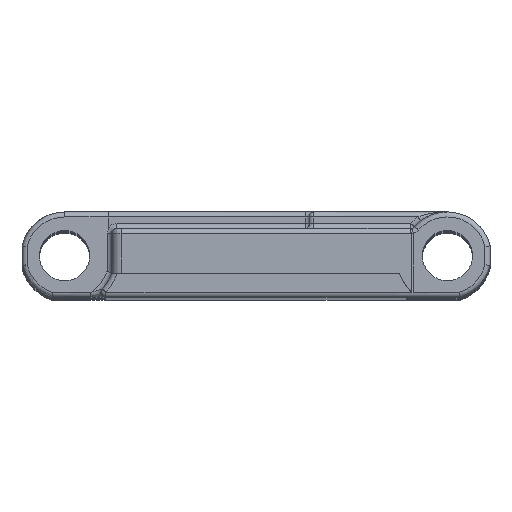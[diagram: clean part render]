
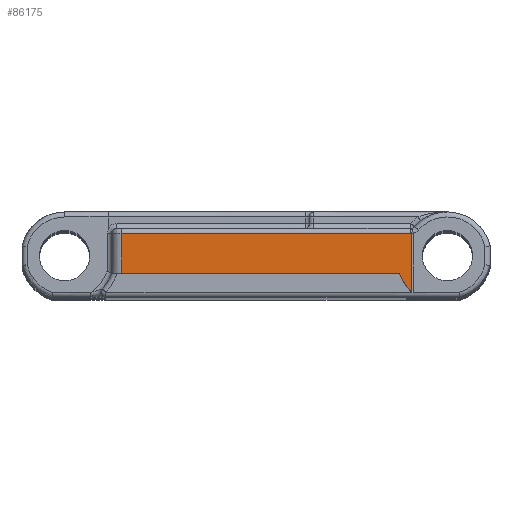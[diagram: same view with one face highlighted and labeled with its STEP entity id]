
A CAD part, top view. The second image highlights one B-rep face of the part: STEP entity #86175.
In plain terms, the highlighted planar face has unit normal (0, 0, 1).
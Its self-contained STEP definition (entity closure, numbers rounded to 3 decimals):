
#9557=DIRECTION('',(1.,0.,0.));
#9558=VECTOR('',#9557,27.636);
#9559=CARTESIAN_POINT('',(-13.366,-1.763,76.15));
#9560=LINE('',#9559,#9558);
#29552=DIRECTION('',(-1.,0.,0.));
#29553=VECTOR('',#29552,28.772);
#29554=CARTESIAN_POINT('',(15.406,2.2,76.15));
#29555=LINE('',#29554,#29553);
#29556=CARTESIAN_POINT('',(15.406,3.2,76.15));
#29557=DIRECTION('',(0.,0.,-1.));
#29558=DIRECTION('',(0.034,-0.999,0.));
#29559=AXIS2_PLACEMENT_3D('',#29556,#29557,#29558);
#29561=DIRECTION('',(0.,-1.,0.));
#29562=VECTOR('',#29561,5.8);
#29563=CARTESIAN_POINT('',(15.44,2.201,76.15));
#29564=LINE('',#29563,#29562);
#29565=CARTESIAN_POINT('',(19.067,0.,76.15));
#29566=DIRECTION('',(0.,0.,1.));
#29567=DIRECTION('',(-0.939,-0.345,0.));
#29568=AXIS2_PLACEMENT_3D('',#29565,#29566,#29567);
#29570=DIRECTION('',(0.,1.,0.));
#29571=VECTOR('',#29570,3.963);
#29572=CARTESIAN_POINT('',(-13.366,-1.763,76.15));
#29573=LINE('',#29572,#29571);
#47251=CARTESIAN_POINT('',(-13.366,-1.763,76.15));
#47252=CARTESIAN_POINT('',(14.271,-1.763,76.15));
#47253=VERTEX_POINT('',#47251);
#47254=VERTEX_POINT('',#47252);
#47257=CARTESIAN_POINT('',(15.44,-3.6,76.15));
#47258=VERTEX_POINT('',#47257);
#48609=CARTESIAN_POINT('',(-13.366,2.2,76.15));
#48611=VERTEX_POINT('',#48609);
#48617=CARTESIAN_POINT('',(15.406,2.2,76.15));
#48618=VERTEX_POINT('',#48617);
#48621=CARTESIAN_POINT('',(15.44,2.201,76.15));
#48622=VERTEX_POINT('',#48621);
#86161=CARTESIAN_POINT('',(-13.366,-1.763,76.15));
#86162=DIRECTION('',(0.,0.,1.));
#86163=DIRECTION('',(1.,0.,0.));
#86164=AXIS2_PLACEMENT_3D('',#86161,#86162,#86163);
#86165=PLANE('',#86164);
#86166=ORIENTED_EDGE('',*,*,#86151,.F.);
#86168=ORIENTED_EDGE('',*,*,#86167,.F.);
#86169=ORIENTED_EDGE('',*,*,#54505,.T.);
#86170=ORIENTED_EDGE('',*,*,#54446,.F.);
#86171=ORIENTED_EDGE('',*,*,#58739,.F.);
#86172=ORIENTED_EDGE('',*,*,#58768,.T.);
#86173=EDGE_LOOP('',(#86166,#86168,#86169,#86170,#86171,#86172));
#86174=FACE_OUTER_BOUND('',#86173,.F.);
#29560=CIRCLE('',#29559,1.);
#29569=CIRCLE('',#29568,5.11);
#54446=EDGE_CURVE('',#47254,#47258,#29569,.T.);
#54505=EDGE_CURVE('',#48622,#47258,#29564,.T.);
#58739=EDGE_CURVE('',#47253,#47254,#9560,.T.);
#58768=EDGE_CURVE('',#47253,#48611,#29573,.T.);
#86151=EDGE_CURVE('',#48618,#48611,#29555,.T.);
#86167=EDGE_CURVE('',#48622,#48618,#29560,.T.);
#86175=ADVANCED_FACE('',(#86174),#86165,.T.);
